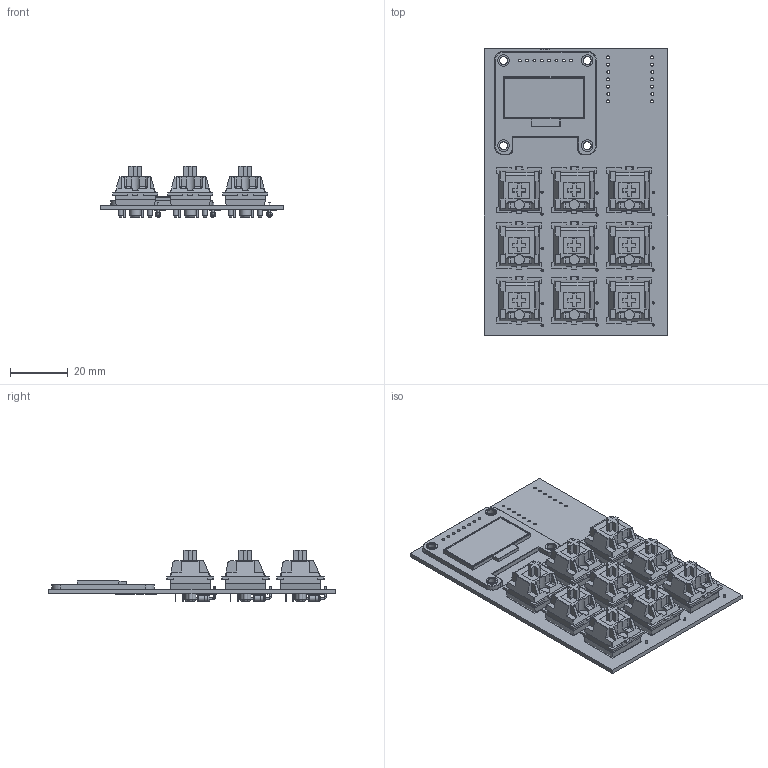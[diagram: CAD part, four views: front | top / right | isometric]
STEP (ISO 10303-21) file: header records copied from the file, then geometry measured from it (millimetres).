
FILE_DESCRIPTION(('KiCad electronic assembly'),'2;1');
FILE_NAME('hk.step','2026-02-04T18:04:31',('Pcbnew'),('Kicad'), 'Open CASCADE STEP processor 7.9','KiCad to STEP converter','Unknown' );
FILE_SCHEMA(('AUTOMOTIVE_DESIGN { 1 0 10303 214 1 1 1 1 }'));
Length unit declared in the file: millimetre
Products named in the file (10): hk 1; switch; Component1; Component2; Adafruit_SSD1306; D_DO-35_SOD27_P7.62mm_Horizontal; hk_silkscreen; hk_PCB; hk 2
Assembly tree (24 placements, depth 3):
  hk 1
    switch  x9
      Component1
      Component2
    Adafruit_SSD1306
    D_DO-35_SOD27_P7.62mm_Horizontal  x9
    hk_silkscreen
    hk_silkscreen
    hk_PCB
  hk 2
Bounding box: 63.5 x 99 x 17.68 mm (x, y, z)
Volume: 27291.5 mm3; surface area: 32059.3 mm2
Topology: 92 solids, 180 shells, 1586 faces, 5555 edges, 4277 vertices
Faces by surface type: plane 1126, cylinder 367, torus 42, cone 27, sphere 24
Full cylindrical faces by diameter (mm): 0.5 x27, 0.8 x18, 1 x30, 1.5 x18, 1.6 x18, 1.7 x18, 2 x18, 2.02 x9, 2.7 x4, 2.8 x8, 3.85 x9, 4 x13
Entity records: 29519 total; most frequent: CARTESIAN_POINT 5765, DIRECTION 4476, ORIENTED_EDGE 3652, EDGE_CURVE 2797, VERTEX_POINT 2493, LINE 2004, VECTOR 2004, AXIS2_PLACEMENT_3D 1236
